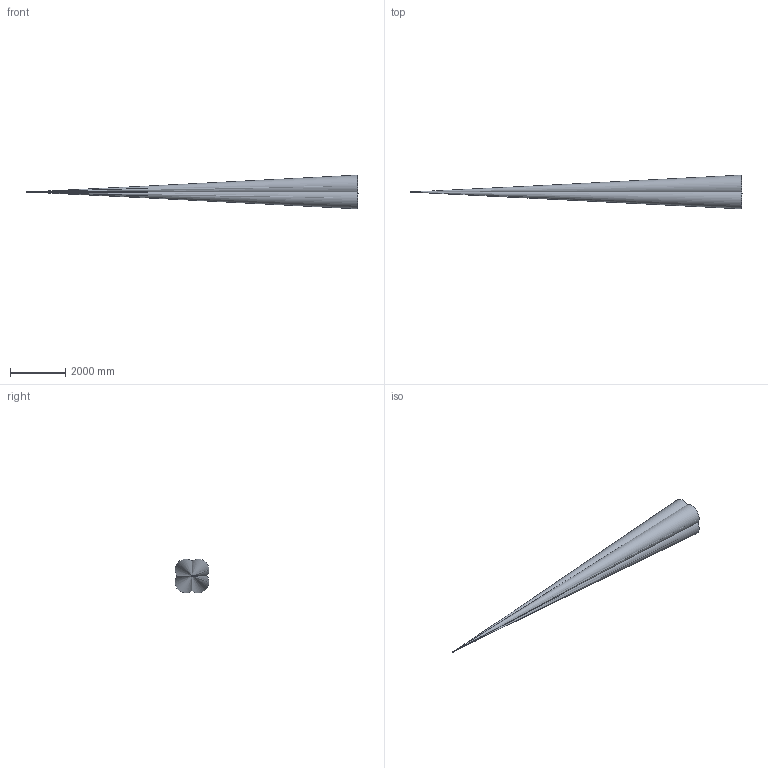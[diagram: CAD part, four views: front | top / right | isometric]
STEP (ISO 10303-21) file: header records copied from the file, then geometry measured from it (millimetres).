
FILE_DESCRIPTION(/* description */ ('Unknown'),/* implementation_level */ '2;1');
FILE_NAME(/* name */ 'O330.TP-xxxxx.72ZV_with_Beam',/* time_stamp */ '2023-05-04T13:10:35+02:00',/* author */ ('Unknown'),/* organization */ ('Baumer'),/* preprocessor_version */ 'ST-DEVELOPER v16.7',/* originating_system */ 'Solid Edge',/* authorisation */ 'Unknown');
FILE_SCHEMA (('AUTOMOTIVE_DESIGN {1 0 10303 214 3 1 1}'));
Length unit declared in the file: millimetre
Products named in the file (6): O330.TP-xxxxx.72ZV_with_Beam; O330.TP_Beam; O330.TP_NominalBeam; O330.TP_MaxDevBeam; O330.xP-xxxxx.72ZV; O330.TP_Axis
Assembly tree (8 placements, depth 3):
  O330.TP-xxxxx.72ZV_with_Beam
    O330.TP_Beam
      O330.TP_NominalBeam
      O330.TP_MaxDevBeam  x4
    O330.xP-xxxxx.72ZV
    O330.TP_Axis
Bounding box: 12032.02 x 1222.86 x 1222.39 mm (x, y, z)
Volume: 9204082329.7 mm3; surface area: 73859642.8 mm2
Topology: 7 solids, 7 shells, 262 faces, 657 edges, 411 vertices
Faces by surface type: plane 128, cylinder 70, cone 28, bspline 18, sphere 9, torus 9
Full cylindrical faces by diameter (mm): 0.5 x1, 3.15 x2, 3.5 x1, 5 x4, 7.468 x1
Entity records: 12053 total; most frequent: CARTESIAN_POINT 3970, DIRECTION 1235, ORIENTED_EDGE 1212, EDGE_CURVE 606, AXIS2_PLACEMENT_3D 453, VERTEX_POINT 395, LINE 329, VECTOR 329
